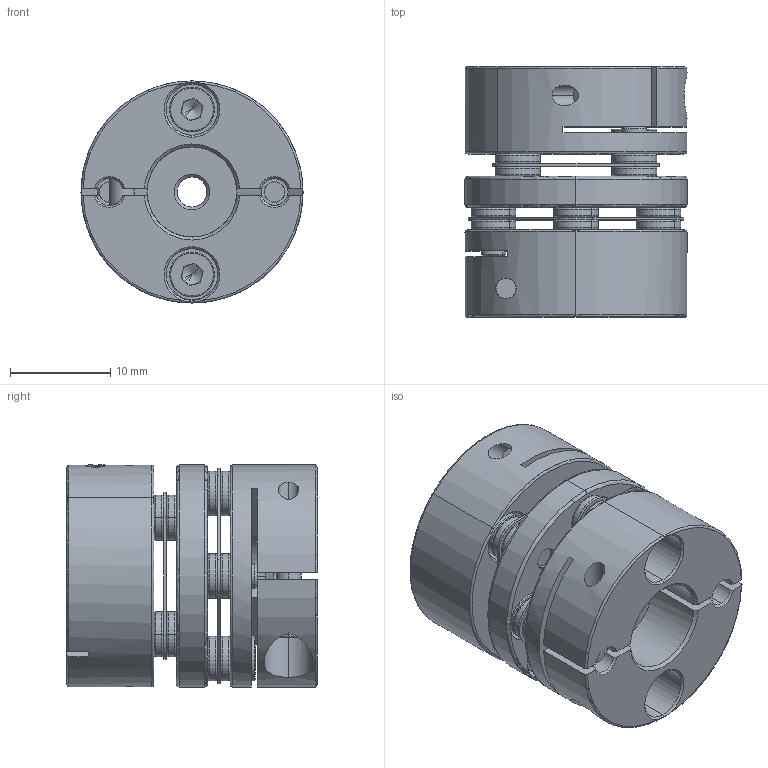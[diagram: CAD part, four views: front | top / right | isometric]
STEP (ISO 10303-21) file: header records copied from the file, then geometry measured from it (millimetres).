
FILE_DESCRIPTION (( 'STEP AP203' ), '1' );
FILE_NAME ('SDWA-22C-3X9_203.STEP', '2013-01-08T00:40:14', ( '' ), ( '' ), 'SwSTEP 2.0', 'SolidWorks 2012', '' );
FILE_SCHEMA (( 'CONFIG_CONTROL_DESIGN' ));
Length unit declared in the file: millimetre
Products named in the file (1): SDWA-22C-3X9_203
Bounding box: 22.2 x 25 x 22.2 mm (x, y, z)
Volume: 6183.6 mm3; surface area: 7242 mm2
Topology: 1 solids, 9 shells, 800 faces, 1894 edges, 1128 vertices
Faces by surface type: cylinder 242, plane 237, cone 175, torus 138, bspline 8
Entity records: 23615 total; most frequent: CARTESIAN_POINT 4585, DIRECTION 4352, ORIENTED_EDGE 3748, EDGE_CURVE 1874, AXIS2_PLACEMENT_3D 1803, VERTEX_POINT 1128, CIRCLE 1010, EDGE_LOOP 904
